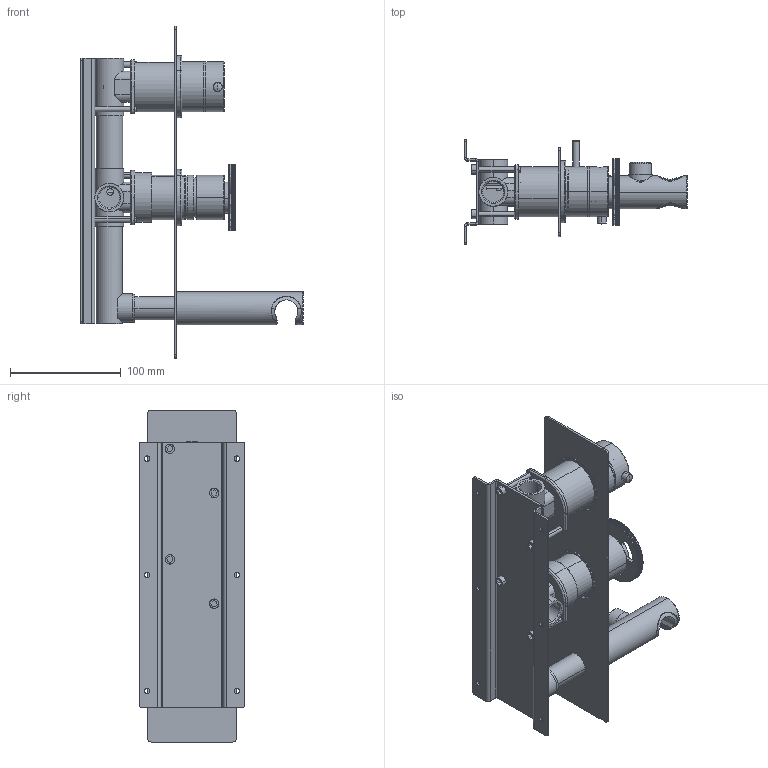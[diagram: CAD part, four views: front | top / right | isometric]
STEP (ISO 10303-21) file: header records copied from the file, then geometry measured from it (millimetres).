
FILE_DESCRIPTION (( 'STEP AP203' ), '1' );
FILE_NAME ('ETO4N.STEP', '2024-01-08T09:23:44', ( '' ), ( '' ), 'SwSTEP 2.0', 'SolidWorks 2023', '' );
FILE_SCHEMA (( 'CONFIG_CONTROL_DESIGN' ));
Length unit declared in the file: millimetre
Products named in the file (52): AS855_00; C24.2086.00.0; TUBO DI GIUNZIONE VASCA E DOCCIA; C10.00.0017; EU0615_0; C25.1964.00.0; C24.1457.00.2; C12.00.0008; C24.1455.00.0; C24.1464.00.1; 405-40CPA GEDA; C47.00.0023.01; EU1993_0; C12.00.0017; IST81; OR4569262NBR; EU1456_0; C11.14.0007; 1174G; C24.1992.00.0; C25.2691.00; EU0620_0; EU1173_0; C11.10.0025; C25.0791.00.1; C24.1966.00.0; EU1996_0; C24.2436.00.0; EU1995_0; C24.1993.00.0; C10.00.0011; C47.00.0076.00; C47.00.0020.01; C11.14.0009; EROGATORE VASCA E DOCCIA; VITETC5x40; AS1023_00; C47.00.0015; C25.0814.00.0; C24.2527.00.0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
Assembly tree (57 placements, depth 4):
  ETO4N
    IST81
      405-40CPA GEDA
        1174G
        EROGATORE VASCA E DOCCIA
        TUBO DI GIUNZIONE VASCA E DOCCIA
        1174
        ADATTATORE MEZZO
      C24.1966.00.0
      C25.1964.00.0
      C12.00.0008
      C12.00.0017  x2
      1000
      C47.00.0015
      C24.1965.00.0
      C10.00.0011
      VITETC5x40  x4
      C10.00.0017
      C24.1455.00.0
      C47.00.0020.01
      C24.1993.00.0
    AS855_00
      C24.2086.00.0
      C47.00.0121.0
      C25.0791.00.1
      C12.00.0011
      C11.14.0008
    AS1023_00
      C24.1992.00.0
      C24.2527.00.0
      C11.14.0007
      C11.14.0009
      C47.00.0023.01
      C24.1464.00.1
      C24.2436.00.0
      C11.10.0025
    EU1456_0
    FERMO38
    EU0620_0
    EU0615_0
    AS535_00
      C24.1457.00.2
      C25.0814.00.0
      C11.14.0013
      C11.14.0009
      C47.00.0023.01
      C47.00.0076.00
    OR4569262NBR
    OR3934262ACS
    EU1993_0
    EU1173_0
    EU1995_0
    EU1996_0
    C25.2691.00
Bounding box: 201.5 x 95 x 300 mm (x, y, z)
Volume: 507724.1 mm3; surface area: 311694.1 mm2
Topology: 58 solids, 58 shells, 3344 faces, 8705 edges, 5604 vertices
Faces by surface type: plane 1659, cylinder 1171, cone 306, torus 103, bspline 103, sphere 2
Entity records: 114149 total; most frequent: CARTESIAN_POINT 28038, DIRECTION 16909, ORIENTED_EDGE 16880, EDGE_CURVE 8440, AXIS2_PLACEMENT_3D 6022, VERTEX_POINT 5448, LINE 4865, VECTOR 4865
